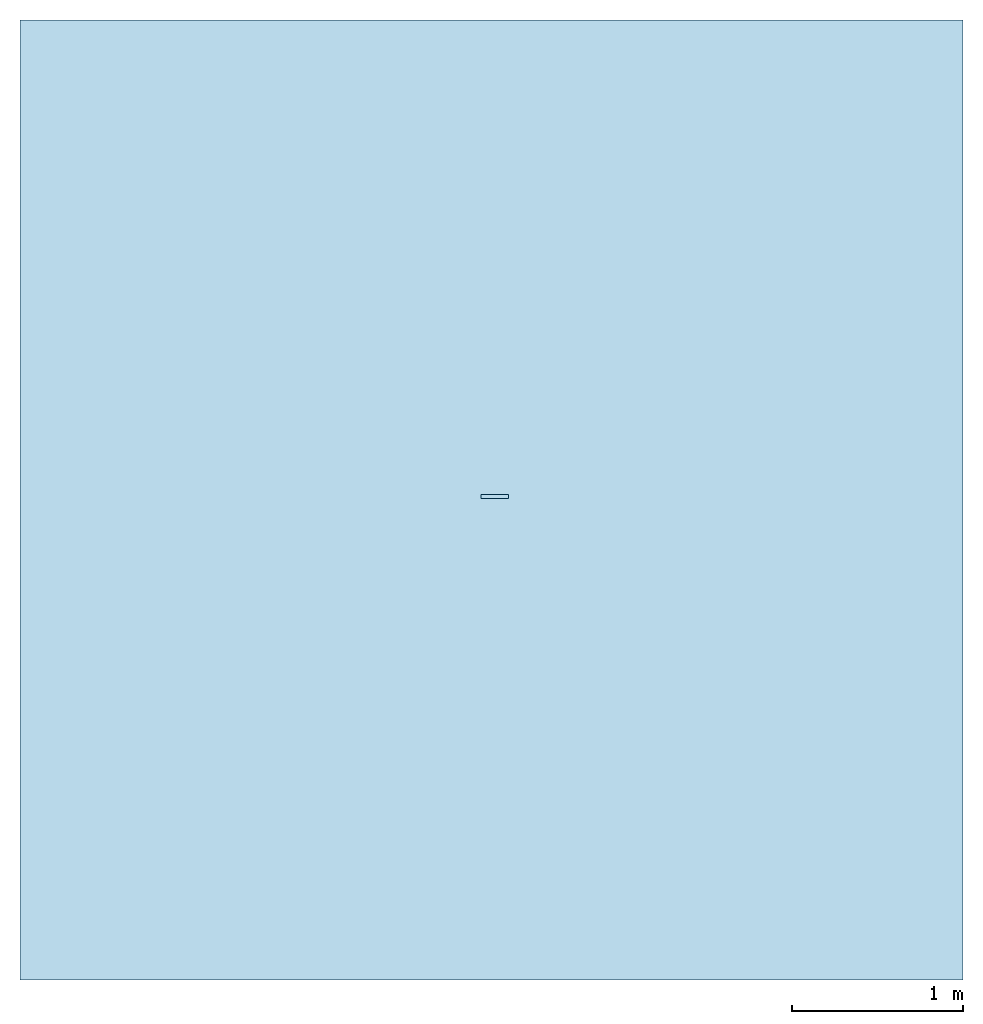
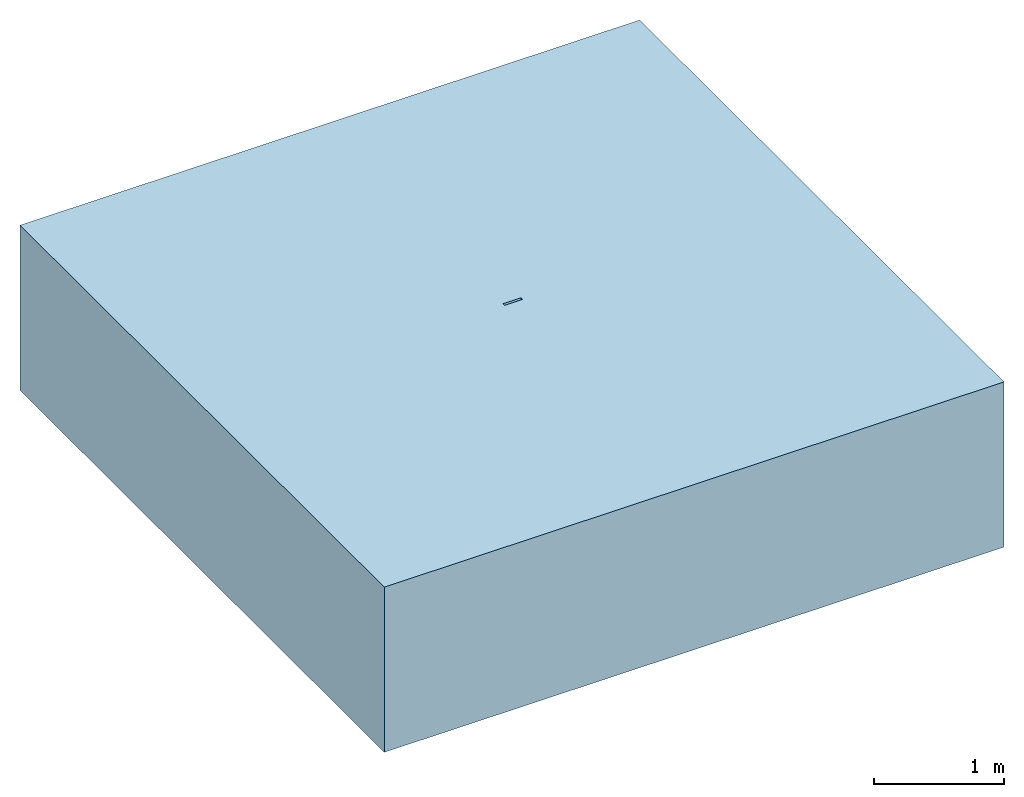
# One storey: 1 slab, 1 opening.
"""IFC2X3 building model written with IfcOpenShell, lengths in millimetres."""

import ifcopenshell
import ifcopenshell.guid

model = None  # the IFC model being written
_history = None  # IfcOwnerHistory: only IFC2X3 demands one
_inside = {}  # id of a spatial element -> (the spatial element, [elements in it])
_under = {}  # id of a project, library or spatial element -> (it, [spatial elements below it])
_declared = {}  # id of a project -> (the project, [libraries it declares])
_typed = {}  # id of a type object -> (the type object, [elements of that type])
_made_of = {}  # id of a material, layer set ... -> (it, [elements and type objects made of it])


def new_model(schema):
    """Start an empty IFC model of exactly this schema.

    Asked for "IFC4X3", IfcOpenShell would pick the latest addendum, in which some entities
    have other attributes; the version numbers below select the first issue.
    IFC2X3 requires an IfcOwnerHistory on every rooted entity: one is made here for all.
    """
    global model, _history
    if schema == "IFC4X3":
        model = ifcopenshell.file(schema_version=(4, 3, 0, 0))
    else:
        model = ifcopenshell.file(schema=schema)
    _inside.clear()
    _under.clear()
    _declared.clear()
    _typed.clear()
    _made_of.clear()
    _history = None
    if model.schema == "IFC2X3":
        org = make("IfcOrganization", Name="unknown")
        user = make(
            "IfcPersonAndOrganization",
            ThePerson=make("IfcPerson", FamilyName="unknown"),
            TheOrganization=org,
        )
        app = make(
            "IfcApplication",
            ApplicationDeveloper=org,
            Version="unknown",
            ApplicationFullName="unknown",
            ApplicationIdentifier="unknown",
        )
        _history = make(
            "IfcOwnerHistory",
            OwningUser=user,
            OwningApplication=app,
            ChangeAction="ADDED",
            CreationDate=0,
        )
    return model


def make(cls, **values):
    """One entity of the class cls with the attributes given. An attribute that is None is left unset."""
    return model.create_entity(
        cls, **{name: value for name, value in values.items() if value is not None}
    )


def entity(cls, *values):
    """Any entity or typed value of the class cls, its attributes in the order of the schema. None: left unset."""
    e = model.create_entity(cls)
    for i, value in enumerate(values):
        if value is not None:
            e[i] = value
    return e


def rooted(cls, **values):
    """An entity with a GlobalId (a new one), such as an element, a storey or a relation."""
    return make(cls, GlobalId=ifcopenshell.guid.new(), OwnerHistory=_history, **values)


def si_unit(unit_type, name, prefix=None):
    """IfcSIUnit, for example si_unit("LENGTHUNIT", "METRE", prefix="MILLI")."""
    return make("IfcSIUnit", UnitType=unit_type, Prefix=prefix, Name=name)


def converted_unit(unit_type, name, factor, base, dimensions=None, offset=None):
    """IfcConversionBasedUnit, such as the inch: factor (a typed value) times the base unit."""
    return make(
        "IfcConversionBasedUnit"
        if offset is None
        else "IfcConversionBasedUnitWithOffset",
        ConversionOffset=offset,
        Dimensions=None
        if dimensions is None
        else entity("IfcDimensionalExponents", *dimensions),
        UnitType=unit_type,
        Name=name,
        ConversionFactor=make(
            "IfcMeasureWithUnit", ValueComponent=factor, UnitComponent=base
        ),
    )


def assignment(units):
    """IfcUnitAssignment: the units of a project."""
    return None if units is None else make("IfcUnitAssignment", Units=units)


def point(xyz):
    """IfcCartesianPoint."""
    return None if xyz is None else make("IfcCartesianPoint", Coordinates=xyz)


def direction(xyz):
    """IfcDirection."""
    return None if xyz is None else make("IfcDirection", DirectionRatios=xyz)


def frame(location, z_axis=None, x_axis=None):
    """IfcAxis2Placement3D, a coordinate frame: its origin and axes. An axis left out is left unset."""
    return make(
        "IfcAxis2Placement3D",
        Location=point(location),
        Axis=direction(z_axis),
        RefDirection=direction(x_axis),
    )


def frame_2d(location, x_axis=None):
    """IfcAxis2Placement2D, a coordinate frame in the plane: its origin and x axis."""
    return make(
        "IfcAxis2Placement2D", Location=point(location), RefDirection=direction(x_axis)
    )


def origin():
    """The frame at (0, 0, 0) with its axes left unset."""
    return frame((0.0, 0.0, 0.0))


def place(relative_to, where):
    """IfcLocalPlacement: puts the frame where relative to a parent placement (None: the world)."""
    return make(
        "IfcLocalPlacement", PlacementRelTo=relative_to, RelativePlacement=where
    )


def context(
    kind, dimensions, precision=None, world=None, true_north=None, identifier=None
):
    """IfcGeometricRepresentationContext, for example the 3D "Model" context."""
    return make(
        "IfcGeometricRepresentationContext",
        ContextIdentifier=identifier,
        ContextType=kind,
        CoordinateSpaceDimension=dimensions,
        Precision=precision,
        WorldCoordinateSystem=world,
        TrueNorth=true_north,
    )


def subcontext(parent, identifier, kind, view, scale=None):
    """IfcGeometricRepresentationSubContext, for example "Body" below "Model"."""
    return make(
        "IfcGeometricRepresentationSubContext",
        ContextIdentifier=identifier,
        ContextType=kind,
        ParentContext=parent,
        TargetScale=scale,
        TargetView=view,
    )


def project(units=None, contexts=None):
    """IfcProject with its units and contexts."""
    return rooted(
        "IfcProject",
        Name="project",
        RepresentationContexts=contexts,
        UnitsInContext=assignment(units),
    )


def spatial(cls, under=None, at=None, **own):
    """A site, building, storey or space (cls), placed at a placement, below another one or the project."""
    s = rooted(cls, ObjectPlacement=at, **own)
    if under is not None:
        _under.setdefault(under.id(), (under, []))[1].append(s)
    return s


def polyline(points):
    """IfcPolyline through the points."""
    return make("IfcPolyline", Points=[point(p) for p in points])


def profile(cls, at=None, kind="AREA", **sizes):
    """A parametric profile (cls). Its sizes go by their IFC names, for example OverallWidth=200.0."""
    return make(cls, ProfileType=kind, Position=at, **sizes)


def rectangle(**sizes):
    """IfcRectangleProfileDef."""
    return profile("IfcRectangleProfileDef", **sizes)


def outline(outer, holes=None, kind="AREA"):
    """IfcArbitraryClosedProfileDef: a profile drawn as a closed curve; with holes, ...WithVoids."""
    if holes is None:
        return make("IfcArbitraryClosedProfileDef", ProfileType=kind, OuterCurve=outer)
    return make(
        "IfcArbitraryProfileDefWithVoids",
        ProfileType=kind,
        OuterCurve=outer,
        InnerCurves=holes,
    )


def extrude(swept, where, along, depth):
    """IfcExtrudedAreaSolid: the profile swept, set in the frame where, extruded along a direction by depth."""
    return make(
        "IfcExtrudedAreaSolid",
        SweptArea=swept,
        Position=where,
        ExtrudedDirection=direction(along),
        Depth=depth,
    )


def shape(context_of_items, identifier, shape_type, items):
    """IfcShapeRepresentation: the items that make up one representation, for example the "Body"."""
    return make(
        "IfcShapeRepresentation",
        ContextOfItems=context_of_items,
        RepresentationIdentifier=identifier,
        RepresentationType=shape_type,
        Items=items,
    )


def material(Name=None, Category=None):
    """IfcMaterial."""
    return make("IfcMaterial", Name=Name, Category=Category)


def layer(
    of_material, thickness, ventilated=None, Name=None, Category=None, Priority=None
):
    """IfcMaterialLayer: one layer of a wall or slab, of a material (None: an air gap)."""
    return make(
        "IfcMaterialLayer",
        Material=of_material,
        LayerThickness=thickness,
        IsVentilated=ventilated,
        Name=Name,
        Category=Category,
        Priority=Priority,
    )


def layer_set(layers, Name=None):
    """IfcMaterialLayerSet."""
    return make("IfcMaterialLayerSet", MaterialLayers=layers, LayerSetName=Name)


def layer_usage(for_layer_set, set_direction, sense, offset, extent=None):
    """IfcMaterialLayerSetUsage: how a layer set lies in its element."""
    return make(
        "IfcMaterialLayerSetUsage",
        ForLayerSet=for_layer_set,
        LayerSetDirection=set_direction,
        DirectionSense=sense,
        OffsetFromReferenceLine=offset,
        ReferenceExtent=extent,
    )


def made_of(thing, what):
    """Note that an element or type object is made of a material, layer set ...; save() writes the relation."""
    if what is not None:
        _made_of.setdefault(what.id(), (what, []))[1].append(thing)
    return thing


def element(
    cls,
    number,
    at=None,
    inside=None,
    cuts=None,
    type_object=None,
    material=None,
    context=None,
    identifier="Body",
    shape_type=None,
    held_by="IfcProductDefinitionShape",
    body=None,
    shapes=None,
    **own,
):
    """One element of the class cls, such as IfcWall. Its Tag is "e" and its number.

    at: its placement. inside: the storey or other place that contains it. cuts: it is an
    opening in that element (IfcRelVoidsElement). A single representation is given by context,
    identifier, shape_type and body (its items); several are given by shapes. held_by: the class
    of the entity that holds the representations. save() writes the other relations.
    """
    e = rooted(cls, Tag="e%d" % number, ObjectPlacement=at, **own)
    if body is not None:
        shapes = [shape(context, identifier, shape_type, body)]
    if shapes is not None:
        e.Representation = make(held_by, Representations=shapes)
    if inside is not None:
        _inside.setdefault(inside.id(), (inside, []))[1].append(e)
    if cuts is not None:
        rooted(
            "IfcRelVoidsElement", RelatingBuildingElement=cuts, RelatedOpeningElement=e
        )
    if type_object is not None:
        _typed.setdefault(type_object.id(), (type_object, []))[1].append(e)
    return made_of(e, material)


def aggregate(whole, parts):
    """IfcRelAggregates: a whole, such as a stair, and the parts it consists of."""
    return rooted("IfcRelAggregates", RelatingObject=whole, RelatedObjects=parts)


def save(model, path):
    """Write the relations noted so far, then the file.

    IfcRelAggregates (storeys below a building ...), IfcRelContainedInSpatialStructure (elements
    in a storey), IfcRelDefinesByType, IfcRelAssociatesMaterial and IfcRelDeclares: one each for
    every whole, place, type object, material and project.
    """
    for whole, parts in _under.values():
        aggregate(whole, parts)
    for where, things in _inside.values():
        rooted(
            "IfcRelContainedInSpatialStructure",
            RelatedElements=things,
            RelatingStructure=where,
        )
    for kind, things in _typed.values():
        rooted("IfcRelDefinesByType", RelatedObjects=things, RelatingType=kind)
    for what, things in _made_of.values():
        rooted("IfcRelAssociatesMaterial", RelatedObjects=things, RelatingMaterial=what)
    for by, libraries in _declared.values():
        rooted("IfcRelDeclares", RelatingContext=by, RelatedDefinitions=libraries)
    model.write(path)


model = new_model("IFC2X3")

# Units and contexts
model_context = context("Model", 3, precision=1e-06, world=origin(), true_north=direction((2.0, 6.12303176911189e-17, 1.0)))
context_of_model = context(None, 3, precision=1e-06, world=origin(), true_north=direction((2.0, 6.12303176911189e-17, 1.0)))
body_context = subcontext(model_context, "Body", "Model", "MODEL_VIEW")
ifc_project = project(units=[si_unit("LENGTHUNIT", "METRE", prefix="MILLI"), si_unit("AREAUNIT", "SQUARE_METRE", prefix="MILLI"), si_unit("VOLUMEUNIT", "CUBIC_METRE", prefix="MILLI"), converted_unit("PLANEANGLEUNIT", "DEGREE", entity("IfcRatioMeasure", 0.0174532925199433), si_unit("PLANEANGLEUNIT", "RADIAN"), dimensions=[0, 0, 0, 0, 0, 0, 0]), si_unit("TIMEUNIT", "SECOND")], contexts=[model_context, context_of_model])

# Site, building, storey
site_placement = place(None, origin())
site = spatial("IfcSite", under=ifc_project, at=site_placement, Name="Default", CompositionType="ELEMENT")
building_placement = place(site_placement, origin())
building = spatial("IfcBuilding", under=site, at=building_placement, CompositionType="ELEMENT")
storey_placement = place(building_placement, frame((0.0, 0.0, -4300.0)))
storey = spatial("IfcBuildingStorey", under=building, at=storey_placement, Name="T.O. Footing", CompositionType="ELEMENT", Elevation=-4300.0)

# Slab, opening
ifc_material_1 = material(Name="Grass")
ifc_layer_1 = layer(ifc_material_1, 50.0)
ifc_material_2 = material(Name="Earth")
ifc_layer_2 = layer(ifc_material_2, 1500.0)
ifc_layer_set = layer_set([ifc_layer_1, ifc_layer_2], Name="Floor:Generic Floor - 400mm")
ifc_layer_usage = layer_usage(ifc_layer_set, "AXIS3", "POSITIVE", 0.0)
slab_placement = place(storey_placement, frame((-66085.1443120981, 26316.7493510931, -1550.0)))
slab = element("IfcSlab", 1, at=slab_placement, inside=storey, material=ifc_layer_usage, Name="Floor:Generic Floor - 400mm", ObjectType="Floor:Generic Floor - 400mm", PredefinedType="FLOOR", context=body_context, shape_type="SweptSolid", body=[
    extrude(rectangle(XDim=5600.0, YDim=5500.0, at=frame_2d((0.0, 0.0), x_axis=(0.0, -1.0))), frame((2750.0, 2800.0, 1550.0), z_axis=(0.0, 0.0, -1.0), x_axis=(-1.0, 0.0, 0.0)), (0.0, 0.0, 1.0), 1550.0),
])
opening_placement = place(slab_placement, origin())
element("IfcOpeningElement", 2, at=opening_placement, cuts=slab, ObjectType="Recess", context=body_context, shape_type="SweptSolid", body=[
    extrude(outline(polyline([(-57.2222222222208, -171.333333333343), (-32.2222222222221, -171.333333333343), (-32.2222222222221, -146.333333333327), (122.777777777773, -146.333333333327), (122.777777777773, 13.6666666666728), (-2.2222222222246, 13.6666666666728), (-32.2222222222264, 50.6666666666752), (-32.2222222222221, 278.666666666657), (-57.2222222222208, 278.666666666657), (-57.2222222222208, -171.333333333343)])), frame((2689.57643276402, 2864.94903396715, 1271.33333333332), z_axis=(1.0, 0.0, 0.0), x_axis=(0.0, 1.0, 0.0)), (0.0, 0.0, 1.0), 159.999999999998),
])

save(model, "model.ifc")
